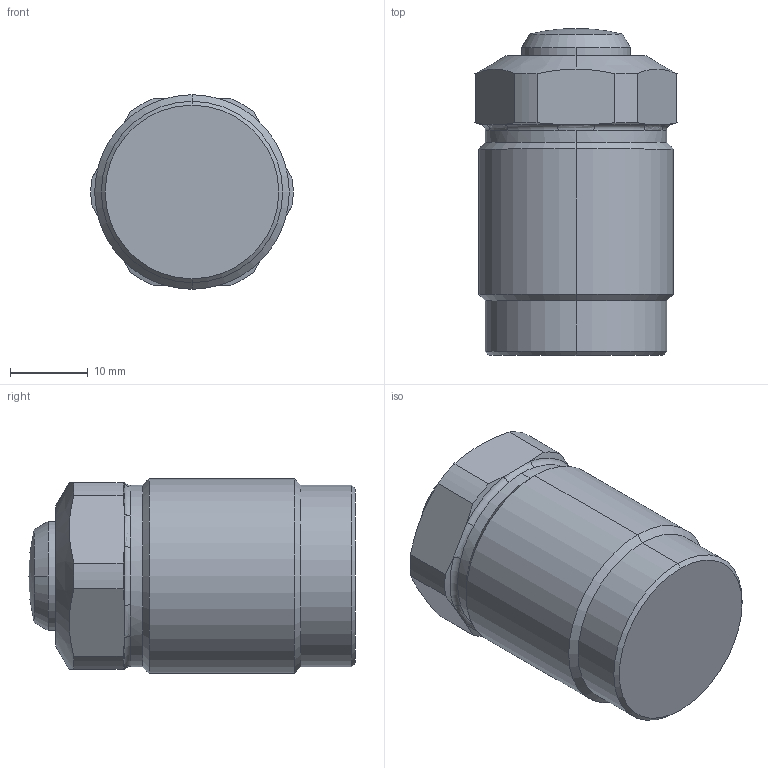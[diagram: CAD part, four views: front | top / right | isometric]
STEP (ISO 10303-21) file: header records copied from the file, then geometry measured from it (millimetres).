
FILE_DESCRIPTION((' '),'2;1');
FILE_NAME( 'CMC04-10R.X_T.stp', '2024-08-27T13:58:37', (' '), ('--- Datakit www.datakit.com---'), ' Datakit CrossCadWare V2024.1 Dec 21 2023', 'Mastercam 2025', ' ');
FILE_SCHEMA(('AUTOMOTIVE_DESIGN { 1 0 10303 214 1 1 1 1 }'));
Length unit declared in the file: millimetre
Products named in the file (1): CMC04-10R
Bounding box: 25.98 x 42 x 25 mm (x, y, z)
Volume: 18413 mm3; surface area: 5118 mm2
Topology: 2 solids, 2 shells, 56 faces, 132 edges, 79 vertices
Faces by surface type: cone 16, cylinder 16, plane 10, torus 6, bspline 6, sphere 2
Entity records: 2882 total; most frequent: CARTESIAN_POINT 1618, DIRECTION 262, ORIENTED_EDGE 260, EDGE_CURVE 130, AXIS2_PLACEMENT_3D 115, VERTEX_POINT 79, CIRCLE 64, EDGE_LOOP 57
